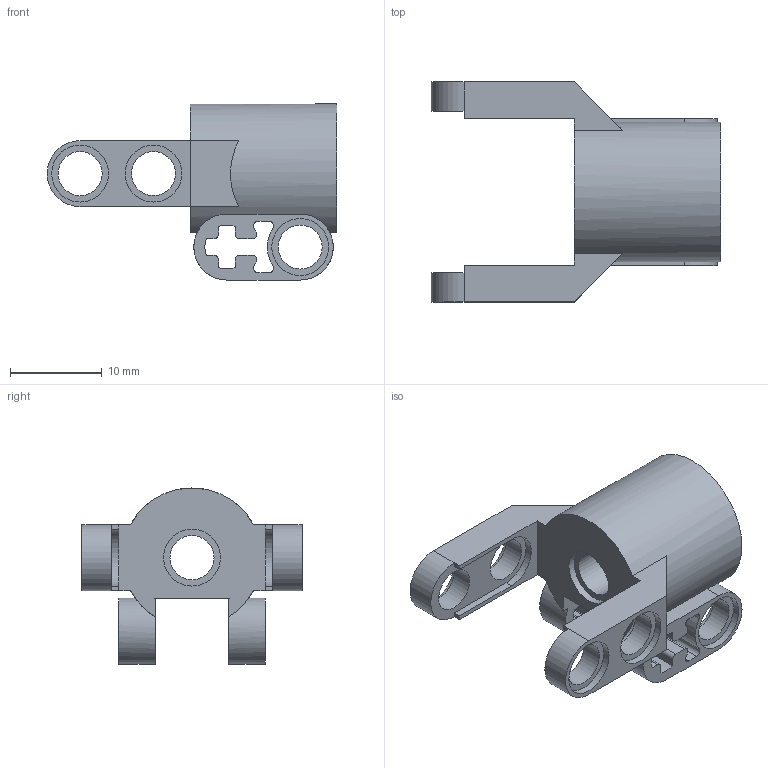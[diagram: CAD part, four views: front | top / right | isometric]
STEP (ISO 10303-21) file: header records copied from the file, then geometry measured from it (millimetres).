
FILE_DESCRIPTION(/* description */ ('Unknown'),/* implementation_level */ '2;1');
FILE_NAME(/* name */ 'Gray_4528038_AVV',/* time_stamp */ '2025-07-21T23:59:42+02:00',/* author */ ('Unknown'),/* organization */ ('Unknown'),/* preprocessor_version */ 'ST-DEVELOPER v19.4',/* originating_system */ 'Solid Edge',/* authorisation */ 'Unknown');
FILE_SCHEMA (('AUTOMOTIVE_DESIGN {1 0 10303 214 3 1 1}'));
Length unit declared in the file: millimetre
Products named in the file (1): Gray_4528038_AVV
Bounding box: 31.6 x 24 x 19.2 mm (x, y, z)
Volume: 2497.3 mm3; surface area: 3007.1 mm2
Topology: 1 solids, 1 shells, 135 faces, 367 edges, 244 vertices
Faces by surface type: cylinder 71, plane 64
Full cylindrical faces by diameter (mm): 4.8 x7, 6.2 x10
Entity records: 4264 total; most frequent: CARTESIAN_POINT 752, DIRECTION 750, ORIENTED_EDGE 692, EDGE_CURVE 346, AXIS2_PLACEMENT_3D 276, VERTEX_POINT 240, LINE 198, VECTOR 198
